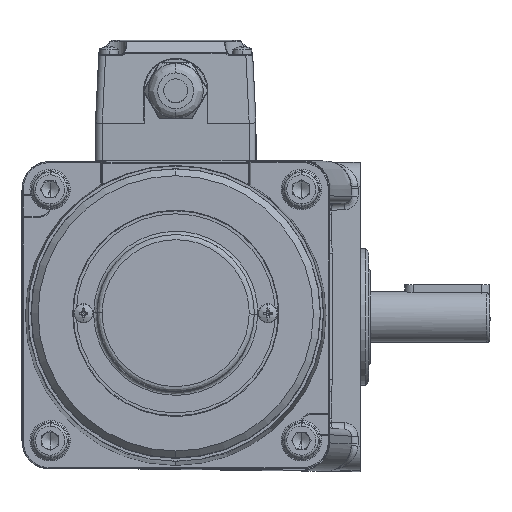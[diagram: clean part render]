
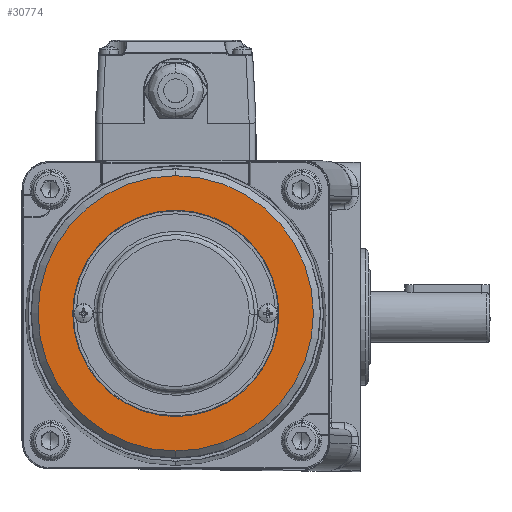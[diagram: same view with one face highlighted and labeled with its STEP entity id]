
A CAD part, front view. The second image highlights one B-rep face of the part: STEP entity #30774.
In plain terms, the highlighted planar face has unit normal (0, -1, 0.005) as drawn and (0, 0, -1) by its records, which use the part's own axes.
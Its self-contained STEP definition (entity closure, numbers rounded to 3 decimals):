
#673 = AXIS2_PLACEMENT_3D ( 'NONE', #4417, #97173, #33919 ) ;
#732 = CARTESIAN_POINT ( 'NONE',  ( -17.068, 2.029, 89.414 ) ) ;
#3371 = EDGE_CURVE ( 'NONE', #55157, #109752, #93308, .T. ) ;
#4417 = CARTESIAN_POINT ( 'NONE',  ( -17.068, 2.029, 89.414 ) ) ;
#7408 = CIRCLE ( 'NONE', #67147, 30.16 ) ;
#7790 = CARTESIAN_POINT ( 'NONE',  ( -17.068, 2.029, 89.414 ) ) ;
#18881 = DIRECTION ( 'NONE',  ( 0., 0., 1. ) ) ;
#25267 = DIRECTION ( 'NONE',  ( 0., 0., -1. ) ) ;
#30774 = ADVANCED_FACE ( 'NONE', ( #36960, #110447 ), #102605, .F. ) ;
#31376 = ORIENTED_EDGE ( 'NONE', *, *, #102549, .F. ) ;
#33919 = DIRECTION ( 'NONE',  ( 1., 0., 0. ) ) ;
#36756 = EDGE_CURVE ( 'NONE', #109752, #55157, #7408, .T. ) ;
#36960 = FACE_OUTER_BOUND ( 'NONE', #61626, .T. ) ;
#40547 = CARTESIAN_POINT ( 'NONE',  ( 23.232, 2.029, 89.414 ) ) ;
#41776 = CIRCLE ( 'NONE', #49454, 40.3 ) ;
#49454 = AXIS2_PLACEMENT_3D ( 'NONE', #732, #81525, #108612 ) ;
#51719 = EDGE_LOOP ( 'NONE', ( #113938, #53361 ) ) ;
#52622 = CIRCLE ( 'NONE', #673, 40.3 ) ;
#53361 = ORIENTED_EDGE ( 'NONE', *, *, #36756, .F. ) ;
#55157 = VERTEX_POINT ( 'NONE', #61354 ) ;
#56782 = AXIS2_PLACEMENT_3D ( 'NONE', #7790, #25267, #107820 ) ;
#61354 = CARTESIAN_POINT ( 'NONE',  ( -47.228, 2.029, 89.414 ) ) ;
#61626 = EDGE_LOOP ( 'NONE', ( #31376, #114101 ) ) ;
#67147 = AXIS2_PLACEMENT_3D ( 'NONE', #118960, #108130, #71405 ) ;
#71405 = DIRECTION ( 'NONE',  ( -1., 0., 0. ) ) ;
#74941 = DIRECTION ( 'NONE',  ( 1., 0., 0. ) ) ;
#76622 = VERTEX_POINT ( 'NONE', #40547 ) ;
#76941 = AXIS2_PLACEMENT_3D ( 'NONE', #83365, #18881, #74941 ) ;
#81525 = DIRECTION ( 'NONE',  ( 0., 0., 1. ) ) ;
#83365 = CARTESIAN_POINT ( 'NONE',  ( -17.068, 2.029, 89.414 ) ) ;
#84414 = EDGE_CURVE ( 'NONE', #103427, #76622, #52622, .T. ) ;
#93308 = CIRCLE ( 'NONE', #56782, 30.16 ) ;
#97173 = DIRECTION ( 'NONE',  ( 0., 0., 1. ) ) ;
#102549 = EDGE_CURVE ( 'NONE', #76622, #103427, #41776, .T. ) ;
#102605 = PLANE ( 'NONE',  #76941 ) ;
#103427 = VERTEX_POINT ( 'NONE', #104478 ) ;
#104478 = CARTESIAN_POINT ( 'NONE',  ( -57.367, 2.029, 89.414 ) ) ;
#105842 = CARTESIAN_POINT ( 'NONE',  ( 13.093, 2.029, 89.414 ) ) ;
#107820 = DIRECTION ( 'NONE',  ( -1., 0., 0. ) ) ;
#108130 = DIRECTION ( 'NONE',  ( 0., 0., -1. ) ) ;
#108612 = DIRECTION ( 'NONE',  ( 1., 0., 0. ) ) ;
#109752 = VERTEX_POINT ( 'NONE', #105842 ) ;
#110447 = FACE_BOUND ( 'NONE', #51719, .T. ) ;
#113938 = ORIENTED_EDGE ( 'NONE', *, *, #3371, .F. ) ;
#114101 = ORIENTED_EDGE ( 'NONE', *, *, #84414, .F. ) ;
#118960 = CARTESIAN_POINT ( 'NONE',  ( -17.068, 2.029, 89.414 ) ) ;
